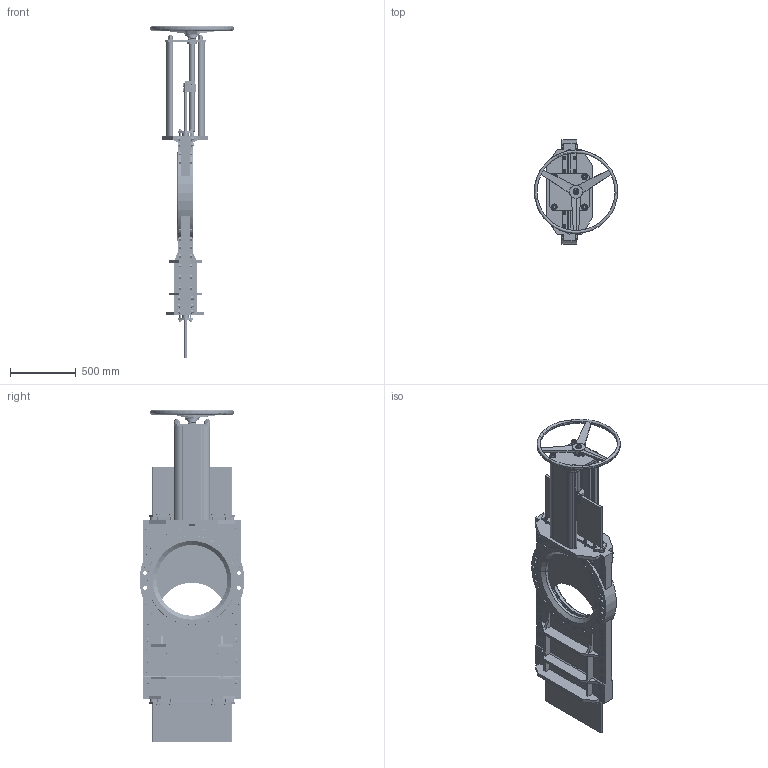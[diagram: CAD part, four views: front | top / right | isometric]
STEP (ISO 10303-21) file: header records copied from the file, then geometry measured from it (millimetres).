
FILE_DESCRIPTION(('STEP AP203'),'1');
FILE_NAME('G:/KONSTRUK/3-d block för CD/HG VALVE/HAND WHEEL/HG600-PN10-HW.stp','2012-12-03T10:09:53',(' '),(' '),'Spatial InterOp 3D',' ',' ');
FILE_SCHEMA(('CONFIG_CONTROL_DESIGN'));
Length unit declared in the file: millimetre
Products named in the file (11): 1; 2; 3; 4; 5; 6; 7; 8; 9; 10; 11
Bounding box: 635 x 797.93 x 2530.99 mm (x, y, z)
Volume: 101089247.6 mm3; surface area: 10656792.2 mm2
Topology: 11 solids, 26 shells, 4269 faces, 10085 edges, 6399 vertices
Faces by surface type: cone 1614, plane 1586, cylinder 1058, torus 11
Entity records: 130441 total; most frequent: CARTESIAN_POINT 31575, DIRECTION 20844, ORIENTED_EDGE 20160, EDGE_CURVE 10080, AXIS2_PLACEMENT_3D 8459, VERTEX_POINT 6399, EDGE_LOOP 4931, ADVANCED_FACE 4269
